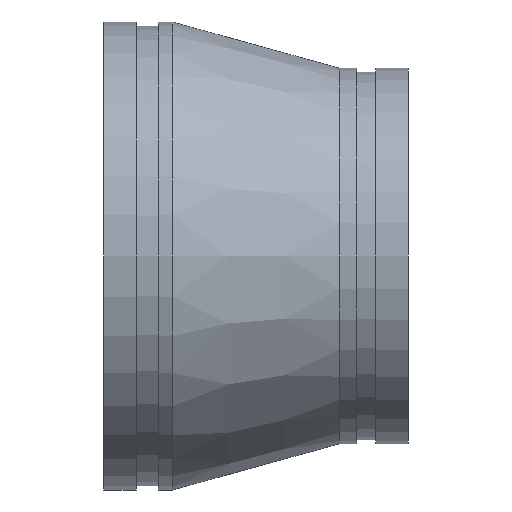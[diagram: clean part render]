
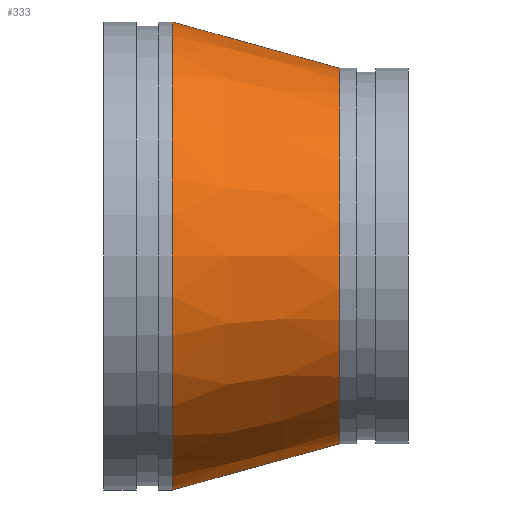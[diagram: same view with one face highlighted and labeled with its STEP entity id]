
A CAD part, front view. The second image highlights one B-rep face of the part: STEP entity #333.
In plain terms, the highlighted conical face has half-angle 15.466 degrees and reference radius 123.031 mm.
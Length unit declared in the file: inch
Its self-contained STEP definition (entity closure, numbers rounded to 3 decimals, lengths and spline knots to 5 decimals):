
#65=FACE_OUTER_BOUND('',#81,.T.);
#81=EDGE_LOOP('',(#229,#230,#231,#232,#233,#234));
#103=LINE('',#571,#113);
#113=VECTOR('',#438,4.84375);
#123=CIRCLE('',#370,4.3125);
#124=CIRCLE('',#371,4.3125);
#125=CIRCLE('',#372,5.375);
#126=CIRCLE('',#373,5.375);
#155=VERTEX_POINT('',#566);
#156=VERTEX_POINT('',#567);
#157=VERTEX_POINT('',#570);
#158=VERTEX_POINT('',#572);
#187=EDGE_CURVE('',#155,#156,#123,.T.);
#188=EDGE_CURVE('',#156,#155,#124,.T.);
#189=EDGE_CURVE('',#156,#157,#103,.T.);
#190=EDGE_CURVE('',#157,#158,#125,.T.);
#191=EDGE_CURVE('',#158,#157,#126,.T.);
#229=ORIENTED_EDGE('',*,*,#187,.F.);
#230=ORIENTED_EDGE('',*,*,#188,.F.);
#231=ORIENTED_EDGE('',*,*,#189,.T.);
#232=ORIENTED_EDGE('',*,*,#190,.T.);
#233=ORIENTED_EDGE('',*,*,#191,.T.);
#234=ORIENTED_EDGE('',*,*,#189,.F.);
#313=CONICAL_SURFACE('',#369,4.84375,0.27);
#333=ADVANCED_FACE('',(#65),#313,.T.);
#369=AXIS2_PLACEMENT_3D('',#565,#432,#433);
#370=AXIS2_PLACEMENT_3D('',#568,#434,#435);
#371=AXIS2_PLACEMENT_3D('',#569,#436,#437);
#372=AXIS2_PLACEMENT_3D('',#573,#439,#440);
#373=AXIS2_PLACEMENT_3D('',#574,#441,#442);
#432=DIRECTION('center_axis',(-1.,0.,0.));
#433=DIRECTION('ref_axis',(0.,1.,0.));
#434=DIRECTION('center_axis',(1.,0.,0.));
#435=DIRECTION('ref_axis',(0.,1.,0.));
#436=DIRECTION('center_axis',(1.,0.,0.));
#437=DIRECTION('ref_axis',(0.,1.,0.));
#438=DIRECTION('',(-0.964,-0.267,0.));
#439=DIRECTION('center_axis',(1.,0.,0.));
#440=DIRECTION('ref_axis',(0.,1.,0.));
#441=DIRECTION('center_axis',(1.,0.,0.));
#442=DIRECTION('ref_axis',(0.,1.,0.));
#565=CARTESIAN_POINT('Origin',(3.5,0.,0.));
#566=CARTESIAN_POINT('',(5.42,4.3125,0.));
#567=CARTESIAN_POINT('',(5.42,-4.3125,0.));
#568=CARTESIAN_POINT('Origin',(5.42,0.,0.));
#569=CARTESIAN_POINT('Origin',(5.42,0.,0.));
#570=CARTESIAN_POINT('',(1.58,-5.375,0.));
#571=CARTESIAN_POINT('',(3.5,-4.84375,0.));
#572=CARTESIAN_POINT('',(1.58,5.375,0.));
#573=CARTESIAN_POINT('Origin',(1.58,0.,0.));
#574=CARTESIAN_POINT('Origin',(1.58,0.,0.));
